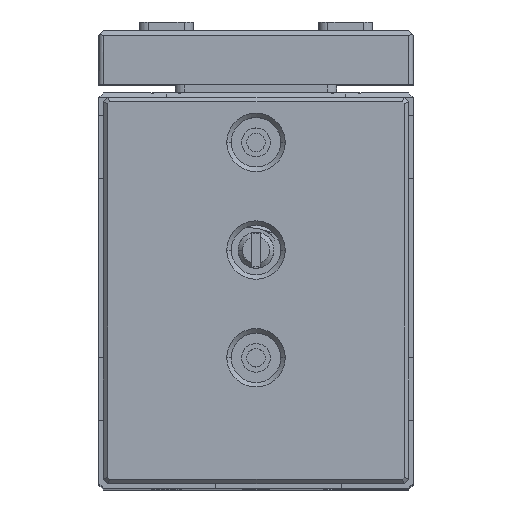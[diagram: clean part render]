
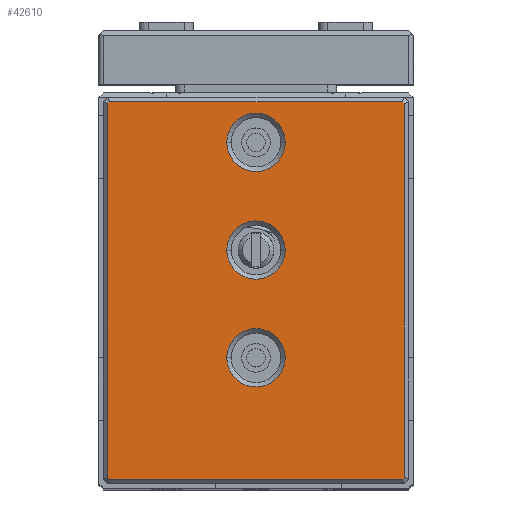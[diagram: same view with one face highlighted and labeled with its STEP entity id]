
A CAD part, top view. The second image highlights one B-rep face of the part: STEP entity #42610.
In plain terms, the highlighted planar face has unit normal (0, 0, 1).
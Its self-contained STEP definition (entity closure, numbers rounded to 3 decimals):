
#426 = DIRECTION ( 'NONE',  ( 0.707, 0.707, 0. ) ) ;
#542 = CIRCLE ( 'NONE', #35692, 3.25 ) ;
#1208 = VECTOR ( 'NONE', #23547, 1000. ) ;
#1317 = EDGE_CURVE ( 'NONE', #18591, #10726, #30301, .T. ) ;
#1713 = FACE_BOUND ( 'NONE', #40429, .T. ) ;
#1752 = CIRCLE ( 'NONE', #19035, 3.25 ) ;
#1859 = VECTOR ( 'NONE', #19349, 1000. ) ;
#1968 = ORIENTED_EDGE ( 'NONE', *, *, #43151, .T. ) ;
#2221 = VECTOR ( 'NONE', #7402, 1000. ) ;
#2304 = AXIS2_PLACEMENT_3D ( 'NONE', #13215, #36877, #6659 ) ;
#2757 = ORIENTED_EDGE ( 'NONE', *, *, #32127, .T. ) ;
#2770 = DIRECTION ( 'NONE',  ( 0., 0., -1. ) ) ;
#3040 = VERTEX_POINT ( 'NONE', #17874 ) ;
#4795 = VERTEX_POINT ( 'NONE', #34387 ) ;
#5467 = VECTOR ( 'NONE', #32200, 1000. ) ;
#5891 = CARTESIAN_POINT ( 'NONE',  ( 17., 26., 5. ) ) ;
#6365 = EDGE_LOOP ( 'NONE', ( #21388, #42296 ) ) ;
#6659 = DIRECTION ( 'NONE',  ( 1., 0., 0. ) ) ;
#6897 = DIRECTION ( 'NONE',  ( 1., 0., 0. ) ) ;
#7215 = DIRECTION ( 'NONE',  ( 0., 0., -1. ) ) ;
#7402 = DIRECTION ( 'NONE',  ( 1., 0., 0. ) ) ;
#7873 = LINE ( 'NONE', #21414, #5467 ) ;
#8252 = FACE_OUTER_BOUND ( 'NONE', #26292, .T. ) ;
#8289 = AXIS2_PLACEMENT_3D ( 'NONE', #31691, #11860, #18627 ) ;
#8740 = EDGE_CURVE ( 'NONE', #35329, #4795, #1752, .T. ) ;
#9376 = VECTOR ( 'NONE', #426, 1000. ) ;
#10726 = VERTEX_POINT ( 'NONE', #40753 ) ;
#10940 = EDGE_CURVE ( 'NONE', #40912, #13071, #44570, .T. ) ;
#11269 = CARTESIAN_POINT ( 'NONE',  ( 20.25, 14., 5. ) ) ;
#11860 = DIRECTION ( 'NONE',  ( 0., 0., 1. ) ) ;
#12435 = DIRECTION ( 'NONE',  ( 0., 0., -1. ) ) ;
#13071 = VERTEX_POINT ( 'NONE', #31227 ) ;
#13215 = CARTESIAN_POINT ( 'NONE',  ( 17., 38., 5. ) ) ;
#13896 = CARTESIAN_POINT ( 'NONE',  ( 17., 26., 5. ) ) ;
#14514 = VERTEX_POINT ( 'NONE', #29298 ) ;
#14558 = EDGE_CURVE ( 'NONE', #13071, #14514, #37611, .T. ) ;
#14873 = DIRECTION ( 'NONE',  ( 1., 0., 0. ) ) ;
#14921 = VERTEX_POINT ( 'NONE', #28887 ) ;
#15895 = CARTESIAN_POINT ( 'NONE',  ( 13.75, 26., 5. ) ) ;
#16073 = LINE ( 'NONE', #26426, #42215 ) ;
#16456 = EDGE_CURVE ( 'NONE', #19475, #35876, #40058, .T. ) ;
#16625 = CARTESIAN_POINT ( 'NONE',  ( 33.146, 42.646, 5. ) ) ;
#17664 = DIRECTION ( 'NONE',  ( 1., 0., 0. ) ) ;
#17874 = CARTESIAN_POINT ( 'NONE',  ( 0.5, 0.707, 5. ) ) ;
#18552 = CARTESIAN_POINT ( 'NONE',  ( 33.293, 42.5, 5. ) ) ;
#18591 = VERTEX_POINT ( 'NONE', #42929 ) ;
#18627 = DIRECTION ( 'NONE',  ( 1., 0., 0. ) ) ;
#19035 = AXIS2_PLACEMENT_3D ( 'NONE', #27800, #37928, #17664 ) ;
#19349 = DIRECTION ( 'NONE',  ( -0.707, 0.707, 0. ) ) ;
#19459 = CARTESIAN_POINT ( 'NONE',  ( 33.5, 42.5, 5. ) ) ;
#19475 = VERTEX_POINT ( 'NONE', #24147 ) ;
#19779 = ORIENTED_EDGE ( 'NONE', *, *, #41844, .T. ) ;
#20066 = ORIENTED_EDGE ( 'NONE', *, *, #14558, .T. ) ;
#20449 = CARTESIAN_POINT ( 'NONE',  ( 0.707, 0.5, 5. ) ) ;
#21388 = ORIENTED_EDGE ( 'NONE', *, *, #1317, .T. ) ;
#21414 = CARTESIAN_POINT ( 'NONE',  ( 0.5, 0.5, 5. ) ) ;
#22342 = AXIS2_PLACEMENT_3D ( 'NONE', #5891, #12435, #43511 ) ;
#22942 = EDGE_CURVE ( 'NONE', #4795, #35329, #542, .T. ) ;
#23087 = CIRCLE ( 'NONE', #22342, 3.25 ) ;
#23177 = CIRCLE ( 'NONE', #2304, 3.25 ) ;
#23433 = ORIENTED_EDGE ( 'NONE', *, *, #8740, .T. ) ;
#23547 = DIRECTION ( 'NONE',  ( 0.707, -0.707, 0. ) ) ;
#23825 = EDGE_CURVE ( 'NONE', #37975, #14921, #16073, .T. ) ;
#24056 = VERTEX_POINT ( 'NONE', #28636 ) ;
#24147 = CARTESIAN_POINT ( 'NONE',  ( 20.25, 26., 5. ) ) ;
#24246 = VECTOR ( 'NONE', #43329, 1000. ) ;
#24567 = DIRECTION ( 'NONE',  ( 1., 0., 0. ) ) ;
#24575 = CARTESIAN_POINT ( 'NONE',  ( 17., 38., 5. ) ) ;
#25607 = FACE_BOUND ( 'NONE', #40324, .T. ) ;
#25948 = LINE ( 'NONE', #41785, #36351 ) ;
#26292 = EDGE_LOOP ( 'NONE', ( #31523, #38917, #36588, #20066, #19779, #26727, #27868, #1968 ) ) ;
#26426 = CARTESIAN_POINT ( 'NONE',  ( 0.5, 42.5, 5. ) ) ;
#26727 = ORIENTED_EDGE ( 'NONE', *, *, #40788, .T. ) ;
#26761 = LINE ( 'NONE', #16625, #1859 ) ;
#27800 = CARTESIAN_POINT ( 'NONE',  ( 17., 14., 5. ) ) ;
#27868 = ORIENTED_EDGE ( 'NONE', *, *, #23825, .T. ) ;
#28636 = CARTESIAN_POINT ( 'NONE',  ( 0.5, 42.293, 5. ) ) ;
#28857 = AXIS2_PLACEMENT_3D ( 'NONE', #24575, #7215, #14873 ) ;
#28887 = CARTESIAN_POINT ( 'NONE',  ( 0.707, 42.5, 5. ) ) ;
#29298 = CARTESIAN_POINT ( 'NONE',  ( 33.5, 0.707, 5. ) ) ;
#29591 = LINE ( 'NONE', #19459, #24246 ) ;
#30301 = CIRCLE ( 'NONE', #28857, 3.25 ) ;
#31227 = CARTESIAN_POINT ( 'NONE',  ( 33.293, 0.5, 5. ) ) ;
#31295 = CARTESIAN_POINT ( 'NONE',  ( 33.646, 0.854, 5. ) ) ;
#31523 = ORIENTED_EDGE ( 'NONE', *, *, #43746, .T. ) ;
#31691 = CARTESIAN_POINT ( 'NONE',  ( 0., 0., 5. ) ) ;
#32127 = EDGE_CURVE ( 'NONE', #35876, #19475, #23087, .T. ) ;
#32144 = AXIS2_PLACEMENT_3D ( 'NONE', #13896, #43863, #6897 ) ;
#32200 = DIRECTION ( 'NONE',  ( 0., -1., 0. ) ) ;
#33785 = EDGE_CURVE ( 'NONE', #10726, #18591, #23177, .T. ) ;
#33906 = LINE ( 'NONE', #44259, #1208 ) ;
#34387 = CARTESIAN_POINT ( 'NONE',  ( 13.75, 14., 5. ) ) ;
#34389 = VERTEX_POINT ( 'NONE', #36605 ) ;
#35329 = VERTEX_POINT ( 'NONE', #11269 ) ;
#35692 = AXIS2_PLACEMENT_3D ( 'NONE', #41670, #2770, #24567 ) ;
#35876 = VERTEX_POINT ( 'NONE', #15895 ) ;
#36152 = ORIENTED_EDGE ( 'NONE', *, *, #16456, .T. ) ;
#36312 = DIRECTION ( 'NONE',  ( -0.707, -0.707, 0. ) ) ;
#36351 = VECTOR ( 'NONE', #36312, 1000. ) ;
#36588 = ORIENTED_EDGE ( 'NONE', *, *, #10940, .T. ) ;
#36605 = CARTESIAN_POINT ( 'NONE',  ( 33.5, 42.293, 5. ) ) ;
#36877 = DIRECTION ( 'NONE',  ( 0., 0., -1. ) ) ;
#37611 = LINE ( 'NONE', #31295, #9376 ) ;
#37928 = DIRECTION ( 'NONE',  ( 0., 0., -1. ) ) ;
#37975 = VERTEX_POINT ( 'NONE', #18552 ) ;
#38034 = CARTESIAN_POINT ( 'NONE',  ( 33.5, 0.5, 5. ) ) ;
#38040 = ORIENTED_EDGE ( 'NONE', *, *, #22942, .T. ) ;
#38917 = ORIENTED_EDGE ( 'NONE', *, *, #41461, .T. ) ;
#39114 = FACE_BOUND ( 'NONE', #6365, .T. ) ;
#40058 = CIRCLE ( 'NONE', #32144, 3.25 ) ;
#40166 = DIRECTION ( 'NONE',  ( -1., 0., 0. ) ) ;
#40324 = EDGE_LOOP ( 'NONE', ( #36152, #2757 ) ) ;
#40429 = EDGE_LOOP ( 'NONE', ( #23433, #38040 ) ) ;
#40753 = CARTESIAN_POINT ( 'NONE',  ( 13.75, 38., 5. ) ) ;
#40788 = EDGE_CURVE ( 'NONE', #34389, #37975, #26761, .T. ) ;
#40912 = VERTEX_POINT ( 'NONE', #20449 ) ;
#41461 = EDGE_CURVE ( 'NONE', #3040, #40912, #33906, .T. ) ;
#41670 = CARTESIAN_POINT ( 'NONE',  ( 17., 14., 5. ) ) ;
#41785 = CARTESIAN_POINT ( 'NONE',  ( 0.354, 42.146, 5. ) ) ;
#41844 = EDGE_CURVE ( 'NONE', #14514, #34389, #29591, .T. ) ;
#42053 = PLANE ( 'NONE',  #8289 ) ;
#42215 = VECTOR ( 'NONE', #40166, 1000. ) ;
#42296 = ORIENTED_EDGE ( 'NONE', *, *, #33785, .T. ) ;
#42610 = ADVANCED_FACE ( 'NONE', ( #8252, #25607, #1713, #39114 ), #42053, .T. ) ;
#42929 = CARTESIAN_POINT ( 'NONE',  ( 20.25, 38., 5. ) ) ;
#43151 = EDGE_CURVE ( 'NONE', #14921, #24056, #25948, .T. ) ;
#43329 = DIRECTION ( 'NONE',  ( 0., 1., 0. ) ) ;
#43511 = DIRECTION ( 'NONE',  ( 1., 0., 0. ) ) ;
#43746 = EDGE_CURVE ( 'NONE', #24056, #3040, #7873, .T. ) ;
#43863 = DIRECTION ( 'NONE',  ( 0., 0., -1. ) ) ;
#44259 = CARTESIAN_POINT ( 'NONE',  ( 0.854, 0.354, 5. ) ) ;
#44570 = LINE ( 'NONE', #38034, #2221 ) ;
